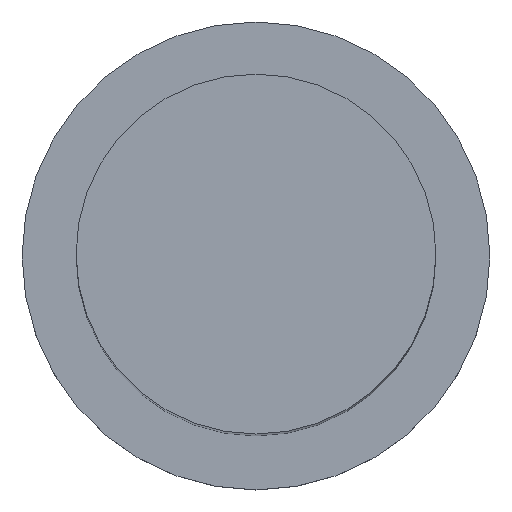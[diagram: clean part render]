
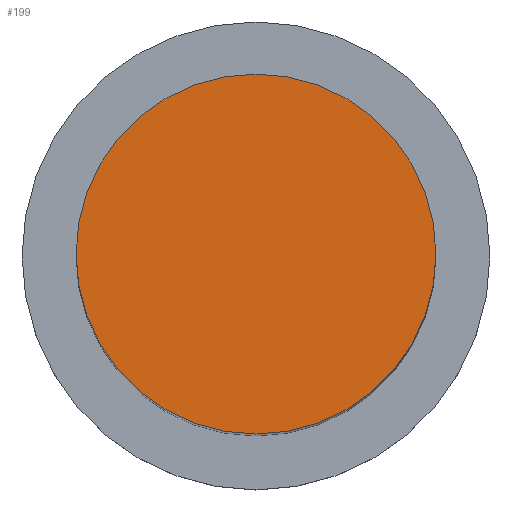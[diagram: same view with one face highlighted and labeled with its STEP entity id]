
A CAD part, top view. The second image highlights one B-rep face of the part: STEP entity #199.
In plain terms, the highlighted planar face has unit normal (0, 0, 1).
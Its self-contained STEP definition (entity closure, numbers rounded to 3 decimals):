
#129 = CYLINDRICAL_SURFACE('',#130,1.);
#130 = AXIS2_PLACEMENT_3D('',#131,#132,#133);
#131 = CARTESIAN_POINT('',(0.,0.,2.7));
#132 = DIRECTION('',(0.,0.,1.));
#133 = DIRECTION('',(1.,0.,-0.));
#148 = EDGE_CURVE('',#149,#149,#151,.T.);
#149 = VERTEX_POINT('',#150);
#150 = CARTESIAN_POINT('',(1.,0.,8.65));
#151 = SURFACE_CURVE('',#152,(#157,#164),.PCURVE_S1.);
#152 = CIRCLE('',#153,1.);
#153 = AXIS2_PLACEMENT_3D('',#154,#155,#156);
#154 = CARTESIAN_POINT('',(0.,0.,8.65));
#155 = DIRECTION('',(0.,0.,1.));
#156 = DIRECTION('',(1.,0.,-0.));
#157 = PCURVE('',#129,#158);
#158 = DEFINITIONAL_REPRESENTATION('',(#159),#163);
#159 = LINE('',#160,#161);
#160 = CARTESIAN_POINT('',(0.,5.95));
#161 = VECTOR('',#162,1.);
#162 = DIRECTION('',(1.,0.));
#163 = ( GEOMETRIC_REPRESENTATION_CONTEXT(2) 
PARAMETRIC_REPRESENTATION_CONTEXT() REPRESENTATION_CONTEXT('2D SPACE',''
  ) );
#164 = PCURVE('',#165,#170);
#165 = PLANE('',#166);
#166 = AXIS2_PLACEMENT_3D('',#167,#168,#169);
#167 = CARTESIAN_POINT('',(0.,0.,8.65));
#168 = DIRECTION('',(0.,0.,1.));
#169 = DIRECTION('',(1.,0.,-0.));
#170 = DEFINITIONAL_REPRESENTATION('',(#171),#175);
#171 = CIRCLE('',#172,1.);
#172 = AXIS2_PLACEMENT_2D('',#173,#174);
#173 = CARTESIAN_POINT('',(0.,0.));
#174 = DIRECTION('',(1.,0.));
#175 = ( GEOMETRIC_REPRESENTATION_CONTEXT(2) 
PARAMETRIC_REPRESENTATION_CONTEXT() REPRESENTATION_CONTEXT('2D SPACE',''
  ) );
#199 = ADVANCED_FACE('',(#200),#165,.T.);
#200 = FACE_BOUND('',#201,.T.);
#201 = EDGE_LOOP('',(#202));
#202 = ORIENTED_EDGE('',*,*,#148,.T.);
